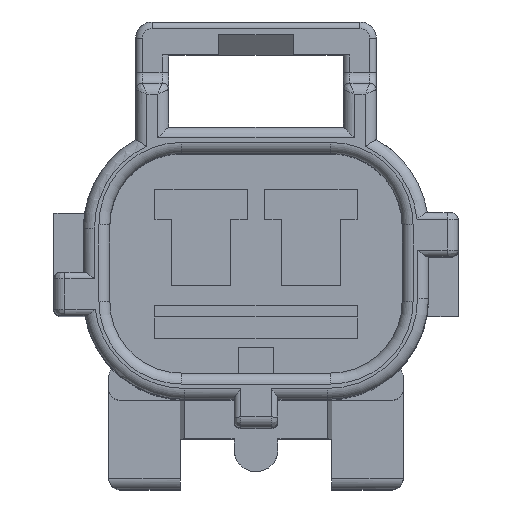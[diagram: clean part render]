
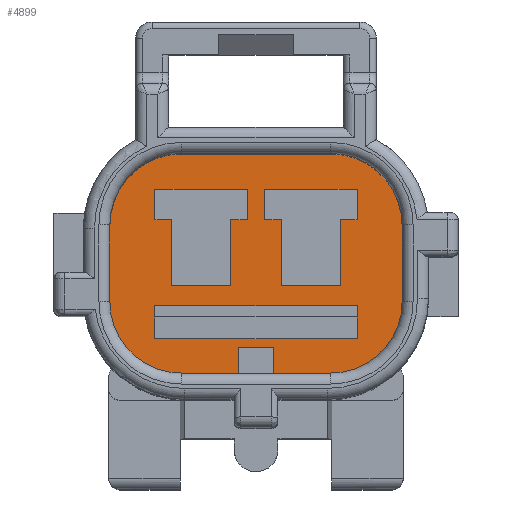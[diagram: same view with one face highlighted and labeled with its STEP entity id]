
A CAD part, top view. The second image highlights one B-rep face of the part: STEP entity #4899.
In plain terms, the highlighted planar face has unit normal (0, 0, 1).
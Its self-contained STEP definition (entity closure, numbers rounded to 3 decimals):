
#228=DIRECTION('',(0.,-1.,0.));
#229=VECTOR('',#228,1.4);
#230=CARTESIAN_POINT('',(-4.6,3.4,-18.2));
#231=LINE('',#230,#229);
#232=DIRECTION('',(1.,0.,0.));
#233=VECTOR('',#232,0.75);
#234=CARTESIAN_POINT('',(-4.6,2.,-18.2));
#235=LINE('',#234,#233);
#236=DIRECTION('',(0.,-1.,0.));
#237=VECTOR('',#236,3.);
#238=CARTESIAN_POINT('',(-3.85,2.,-18.2));
#239=LINE('',#238,#237);
#240=DIRECTION('',(1.,0.,0.));
#241=VECTOR('',#240,2.7);
#242=CARTESIAN_POINT('',(-3.85,-1.,-18.2));
#243=LINE('',#242,#241);
#244=DIRECTION('',(0.,1.,0.));
#245=VECTOR('',#244,3.);
#246=CARTESIAN_POINT('',(-1.15,-1.,-18.2));
#247=LINE('',#246,#245);
#248=DIRECTION('',(1.,0.,0.));
#249=VECTOR('',#248,0.75);
#250=CARTESIAN_POINT('',(-1.15,2.,-18.2));
#251=LINE('',#250,#249);
#252=DIRECTION('',(0.,1.,0.));
#253=VECTOR('',#252,1.4);
#254=CARTESIAN_POINT('',(-0.4,2.,-18.2));
#255=LINE('',#254,#253);
#256=DIRECTION('',(-1.,0.,0.));
#257=VECTOR('',#256,4.2);
#258=CARTESIAN_POINT('',(-0.4,3.4,-18.2));
#259=LINE('',#258,#257);
#260=DIRECTION('',(0.,-1.,0.));
#261=VECTOR('',#260,3.);
#262=CARTESIAN_POINT('',(1.15,2.,-18.2));
#263=LINE('',#262,#261);
#264=DIRECTION('',(1.,0.,0.));
#265=VECTOR('',#264,2.7);
#266=CARTESIAN_POINT('',(1.15,-1.,-18.2));
#267=LINE('',#266,#265);
#268=DIRECTION('',(0.,1.,0.));
#269=VECTOR('',#268,3.);
#270=CARTESIAN_POINT('',(3.85,-1.,-18.2));
#271=LINE('',#270,#269);
#272=DIRECTION('',(1.,0.,0.));
#273=VECTOR('',#272,0.75);
#274=CARTESIAN_POINT('',(3.85,2.,-18.2));
#275=LINE('',#274,#273);
#276=DIRECTION('',(0.,1.,0.));
#277=VECTOR('',#276,1.4);
#278=CARTESIAN_POINT('',(4.6,2.,-18.2));
#279=LINE('',#278,#277);
#280=DIRECTION('',(-1.,0.,0.));
#281=VECTOR('',#280,4.2);
#282=CARTESIAN_POINT('',(4.6,3.4,-18.2));
#283=LINE('',#282,#281);
#284=DIRECTION('',(0.,-1.,0.));
#285=VECTOR('',#284,1.4);
#286=CARTESIAN_POINT('',(0.4,3.4,-18.2));
#287=LINE('',#286,#285);
#288=DIRECTION('',(1.,0.,0.));
#289=VECTOR('',#288,0.75);
#290=CARTESIAN_POINT('',(0.4,2.,-18.2));
#291=LINE('',#290,#289);
#292=DIRECTION('',(0.,1.,0.));
#293=VECTOR('',#292,1.2);
#294=CARTESIAN_POINT('',(-0.8,-5.,-18.2));
#295=LINE('',#294,#293);
#296=DIRECTION('',(1.,0.,0.));
#297=VECTOR('',#296,2.6);
#298=CARTESIAN_POINT('',(-3.4,-5.,-18.2));
#299=LINE('',#298,#297);
#300=CARTESIAN_POINT('',(-3.4,-1.75,-18.2));
#301=DIRECTION('',(0.,0.,1.));
#302=DIRECTION('',(-1.,0.,0.));
#303=AXIS2_PLACEMENT_3D('',#300,#301,#302);
#305=DIRECTION('',(0.,-1.,0.));
#306=VECTOR('',#305,3.5);
#307=CARTESIAN_POINT('',(-6.65,1.75,-18.2));
#308=LINE('',#307,#306);
#309=CARTESIAN_POINT('',(-3.4,1.75,-18.2));
#310=DIRECTION('',(0.,0.,1.));
#311=DIRECTION('',(0.,1.,0.));
#312=AXIS2_PLACEMENT_3D('',#309,#310,#311);
#314=DIRECTION('',(-1.,0.,0.));
#315=VECTOR('',#314,6.8);
#316=CARTESIAN_POINT('',(3.4,5.,-18.2));
#317=LINE('',#316,#315);
#318=CARTESIAN_POINT('',(3.4,1.75,-18.2));
#319=DIRECTION('',(0.,0.,1.));
#320=DIRECTION('',(1.,0.,0.));
#321=AXIS2_PLACEMENT_3D('',#318,#319,#320);
#323=DIRECTION('',(0.,1.,0.));
#324=VECTOR('',#323,3.5);
#325=CARTESIAN_POINT('',(6.65,-1.75,-18.2));
#326=LINE('',#325,#324);
#327=CARTESIAN_POINT('',(3.4,-1.75,-18.2));
#328=DIRECTION('',(0.,0.,1.));
#329=DIRECTION('',(0.,-1.,0.));
#330=AXIS2_PLACEMENT_3D('',#327,#328,#329);
#332=DIRECTION('',(1.,0.,0.));
#333=VECTOR('',#332,2.6);
#334=CARTESIAN_POINT('',(0.8,-5.,-18.2));
#335=LINE('',#334,#333);
#336=DIRECTION('',(0.,1.,0.));
#337=VECTOR('',#336,1.2);
#338=CARTESIAN_POINT('',(0.8,-5.,-18.2));
#339=LINE('',#338,#337);
#340=DIRECTION('',(1.,0.,0.));
#341=VECTOR('',#340,1.6);
#342=CARTESIAN_POINT('',(-0.8,-3.8,-18.2));
#343=LINE('',#342,#341);
#344=DIRECTION('',(0.,1.,0.));
#345=VECTOR('',#344,1.5);
#346=CARTESIAN_POINT('',(4.6,-3.4,-18.2));
#347=LINE('',#346,#345);
#348=DIRECTION('',(1.,0.,0.));
#349=VECTOR('',#348,9.2);
#350=CARTESIAN_POINT('',(-4.6,-1.9,-18.2));
#351=LINE('',#350,#349);
#352=DIRECTION('',(0.,1.,0.));
#353=VECTOR('',#352,1.5);
#354=CARTESIAN_POINT('',(-4.6,-3.4,-18.2));
#355=LINE('',#354,#353);
#356=DIRECTION('',(1.,0.,0.));
#357=VECTOR('',#356,9.2);
#358=CARTESIAN_POINT('',(-4.6,-3.4,-18.2));
#359=LINE('',#358,#357);
#3643=CARTESIAN_POINT('',(-3.4,5.,-18.2));
#3644=CARTESIAN_POINT('',(-6.65,1.75,-18.2));
#3645=VERTEX_POINT('',#3643);
#3646=VERTEX_POINT('',#3644);
#3647=CARTESIAN_POINT('',(-6.65,-1.75,-18.2));
#3648=VERTEX_POINT('',#3647);
#3649=CARTESIAN_POINT('',(-3.4,-5.,-18.2));
#3650=VERTEX_POINT('',#3649);
#3651=CARTESIAN_POINT('',(3.4,-5.,-18.2));
#3652=CARTESIAN_POINT('',(6.65,-1.75,-18.2));
#3653=VERTEX_POINT('',#3651);
#3654=VERTEX_POINT('',#3652);
#3655=CARTESIAN_POINT('',(6.65,1.75,-18.2));
#3656=VERTEX_POINT('',#3655);
#3657=CARTESIAN_POINT('',(3.4,5.,-18.2));
#3658=VERTEX_POINT('',#3657);
#3675=CARTESIAN_POINT('',(-4.6,3.4,-18.2));
#3676=CARTESIAN_POINT('',(-4.6,2.,-18.2));
#3677=VERTEX_POINT('',#3675);
#3678=VERTEX_POINT('',#3676);
#3679=CARTESIAN_POINT('',(-0.8,-5.,-18.2));
#3680=CARTESIAN_POINT('',(-0.8,-3.8,-18.2));
#3681=VERTEX_POINT('',#3679);
#3682=VERTEX_POINT('',#3680);
#3683=CARTESIAN_POINT('',(0.8,-5.,-18.2));
#3684=CARTESIAN_POINT('',(0.8,-3.8,-18.2));
#3685=VERTEX_POINT('',#3683);
#3686=VERTEX_POINT('',#3684);
#3852=CARTESIAN_POINT('',(-3.85,2.,-18.2));
#3853=VERTEX_POINT('',#3852);
#3854=CARTESIAN_POINT('',(-3.85,-1.,-18.2));
#3855=VERTEX_POINT('',#3854);
#3856=CARTESIAN_POINT('',(-1.15,-1.,-18.2));
#3857=VERTEX_POINT('',#3856);
#3858=CARTESIAN_POINT('',(-1.15,2.,-18.2));
#3859=VERTEX_POINT('',#3858);
#3860=CARTESIAN_POINT('',(-0.4,2.,-18.2));
#3861=VERTEX_POINT('',#3860);
#3862=CARTESIAN_POINT('',(1.15,2.,-18.2));
#3863=CARTESIAN_POINT('',(1.15,-1.,-18.2));
#3864=VERTEX_POINT('',#3862);
#3865=VERTEX_POINT('',#3863);
#3866=CARTESIAN_POINT('',(3.85,-1.,-18.2));
#3867=VERTEX_POINT('',#3866);
#3868=CARTESIAN_POINT('',(3.85,2.,-18.2));
#3869=VERTEX_POINT('',#3868);
#3870=CARTESIAN_POINT('',(4.6,2.,-18.2));
#3871=VERTEX_POINT('',#3870);
#3872=CARTESIAN_POINT('',(4.6,3.4,-18.2));
#3873=VERTEX_POINT('',#3872);
#3874=CARTESIAN_POINT('',(-0.4,3.4,-18.2));
#3875=VERTEX_POINT('',#3874);
#3880=CARTESIAN_POINT('',(0.4,3.4,-18.2));
#3881=VERTEX_POINT('',#3880);
#3882=CARTESIAN_POINT('',(0.4,2.,-18.2));
#3883=VERTEX_POINT('',#3882);
#3916=CARTESIAN_POINT('',(4.6,-3.4,-18.2));
#3917=CARTESIAN_POINT('',(4.6,-1.9,-18.2));
#3918=VERTEX_POINT('',#3916);
#3919=VERTEX_POINT('',#3917);
#3920=CARTESIAN_POINT('',(-4.6,-3.4,-18.2));
#3921=CARTESIAN_POINT('',(-4.6,-1.9,-18.2));
#3922=VERTEX_POINT('',#3920);
#3923=VERTEX_POINT('',#3921);
#4831=CARTESIAN_POINT('',(0.,0.,-18.2));
#4832=DIRECTION('',(0.,0.,1.));
#4833=DIRECTION('',(1.,0.,0.));
#4834=AXIS2_PLACEMENT_3D('',#4831,#4832,#4833);
#4835=PLANE('',#4834);
#4837=ORIENTED_EDGE('',*,*,#4836,.F.);
#4838=ORIENTED_EDGE('',*,*,#4776,.F.);
#4839=ORIENTED_EDGE('',*,*,#4798,.F.);
#4840=ORIENTED_EDGE('',*,*,#4812,.F.);
#4841=ORIENTED_EDGE('',*,*,#4825,.F.);
#4842=ORIENTED_EDGE('',*,*,#4719,.F.);
#4843=ORIENTED_EDGE('',*,*,#4734,.F.);
#4844=ORIENTED_EDGE('',*,*,#4748,.F.);
#4845=ORIENTED_EDGE('',*,*,#4762,.F.);
#4846=ORIENTED_EDGE('',*,*,#4784,.F.);
#4848=ORIENTED_EDGE('',*,*,#4847,.T.);
#4850=ORIENTED_EDGE('',*,*,#4849,.F.);
#4851=EDGE_LOOP('',(#4837,#4838,#4839,#4840,#4841,#4842,#4843,#4844,#4845,#4846,
#4848,#4850));
#4852=FACE_OUTER_BOUND('',#4851,.F.);
#4854=ORIENTED_EDGE('',*,*,#4853,.T.);
#4856=ORIENTED_EDGE('',*,*,#4855,.T.);
#4858=ORIENTED_EDGE('',*,*,#4857,.T.);
#4860=ORIENTED_EDGE('',*,*,#4859,.T.);
#4862=ORIENTED_EDGE('',*,*,#4861,.T.);
#4864=ORIENTED_EDGE('',*,*,#4863,.T.);
#4866=ORIENTED_EDGE('',*,*,#4865,.T.);
#4868=ORIENTED_EDGE('',*,*,#4867,.T.);
#4869=EDGE_LOOP('',(#4854,#4856,#4858,#4860,#4862,#4864,#4866,#4868));
#4870=FACE_BOUND('',#4869,.F.);
#4872=ORIENTED_EDGE('',*,*,#4871,.T.);
#4874=ORIENTED_EDGE('',*,*,#4873,.T.);
#4876=ORIENTED_EDGE('',*,*,#4875,.T.);
#4878=ORIENTED_EDGE('',*,*,#4877,.T.);
#4880=ORIENTED_EDGE('',*,*,#4879,.T.);
#4882=ORIENTED_EDGE('',*,*,#4881,.T.);
#4884=ORIENTED_EDGE('',*,*,#4883,.T.);
#4886=ORIENTED_EDGE('',*,*,#4885,.T.);
#4887=EDGE_LOOP('',(#4872,#4874,#4876,#4878,#4880,#4882,#4884,#4886));
#4888=FACE_BOUND('',#4887,.F.);
#4890=ORIENTED_EDGE('',*,*,#4889,.T.);
#4892=ORIENTED_EDGE('',*,*,#4891,.F.);
#4894=ORIENTED_EDGE('',*,*,#4893,.F.);
#4896=ORIENTED_EDGE('',*,*,#4895,.T.);
#4897=EDGE_LOOP('',(#4890,#4892,#4894,#4896));
#4898=FACE_BOUND('',#4897,.F.);
#4899=ADVANCED_FACE('',(#4852,#4870,#4888,#4898),#4835,.T.);
#304=CIRCLE('',#303,3.25);
#313=CIRCLE('',#312,3.25);
#322=CIRCLE('',#321,3.25);
#331=CIRCLE('',#330,3.25);
#4719=EDGE_CURVE('',#3658,#3645,#317,.T.);
#4734=EDGE_CURVE('',#3656,#3658,#322,.T.);
#4748=EDGE_CURVE('',#3654,#3656,#326,.T.);
#4762=EDGE_CURVE('',#3653,#3654,#331,.T.);
#4776=EDGE_CURVE('',#3650,#3681,#299,.T.);
#4784=EDGE_CURVE('',#3685,#3653,#335,.T.);
#4798=EDGE_CURVE('',#3648,#3650,#304,.T.);
#4812=EDGE_CURVE('',#3646,#3648,#308,.T.);
#4825=EDGE_CURVE('',#3645,#3646,#313,.T.);
#4836=EDGE_CURVE('',#3681,#3682,#295,.T.);
#4847=EDGE_CURVE('',#3685,#3686,#339,.T.);
#4849=EDGE_CURVE('',#3682,#3686,#343,.T.);
#4853=EDGE_CURVE('',#3677,#3678,#231,.T.);
#4855=EDGE_CURVE('',#3678,#3853,#235,.T.);
#4857=EDGE_CURVE('',#3853,#3855,#239,.T.);
#4859=EDGE_CURVE('',#3855,#3857,#243,.T.);
#4861=EDGE_CURVE('',#3857,#3859,#247,.T.);
#4863=EDGE_CURVE('',#3859,#3861,#251,.T.);
#4865=EDGE_CURVE('',#3861,#3875,#255,.T.);
#4867=EDGE_CURVE('',#3875,#3677,#259,.T.);
#4871=EDGE_CURVE('',#3864,#3865,#263,.T.);
#4873=EDGE_CURVE('',#3865,#3867,#267,.T.);
#4875=EDGE_CURVE('',#3867,#3869,#271,.T.);
#4877=EDGE_CURVE('',#3869,#3871,#275,.T.);
#4879=EDGE_CURVE('',#3871,#3873,#279,.T.);
#4881=EDGE_CURVE('',#3873,#3881,#283,.T.);
#4883=EDGE_CURVE('',#3881,#3883,#287,.T.);
#4885=EDGE_CURVE('',#3883,#3864,#291,.T.);
#4889=EDGE_CURVE('',#3918,#3919,#347,.T.);
#4891=EDGE_CURVE('',#3923,#3919,#351,.T.);
#4893=EDGE_CURVE('',#3922,#3923,#355,.T.);
#4895=EDGE_CURVE('',#3922,#3918,#359,.T.);
